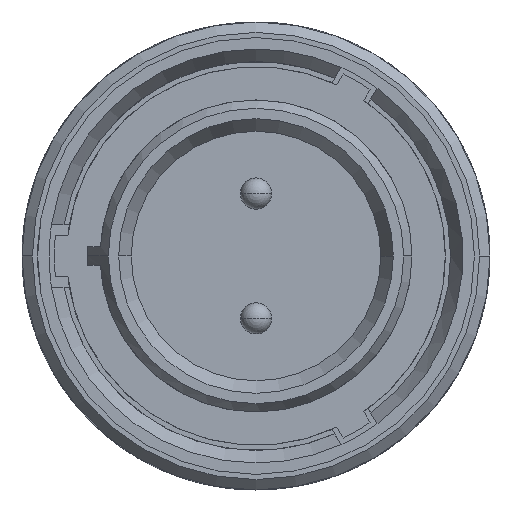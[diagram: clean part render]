
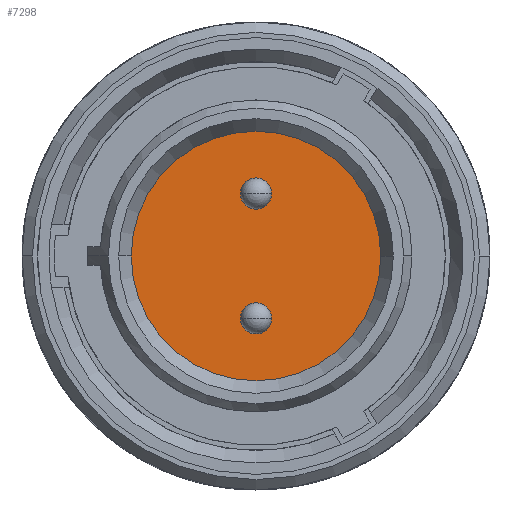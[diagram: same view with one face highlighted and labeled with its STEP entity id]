
A CAD part, left-side view. The second image highlights one B-rep face of the part: STEP entity #7298.
In plain terms, the highlighted planar face has unit normal (-1, 0, 0).
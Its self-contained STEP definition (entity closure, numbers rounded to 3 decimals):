
#1545=CARTESIAN_POINT('',(12.1,0.,0.));
#1546=DIRECTION('',(1.,0.,0.));
#1547=DIRECTION('',(0.,-1.,0.));
#1548=AXIS2_PLACEMENT_3D('',#1545,#1546,#1547);
#1559=CARTESIAN_POINT('',(12.1,0.,0.));
#1560=DIRECTION('',(1.,0.,0.));
#1561=DIRECTION('',(0.,1.,0.));
#1562=AXIS2_PLACEMENT_3D('',#1559,#1560,#1561);
#1573=CARTESIAN_POINT('',(12.1,0.,-3.));
#1574=DIRECTION('',(-1.,0.,0.));
#1575=DIRECTION('',(0.,1.,0.));
#1576=AXIS2_PLACEMENT_3D('',#1573,#1574,#1575);
#1587=CARTESIAN_POINT('',(12.1,0.,-3.));
#1588=DIRECTION('',(-1.,0.,0.));
#1589=DIRECTION('',(0.,-1.,0.));
#1590=AXIS2_PLACEMENT_3D('',#1587,#1588,#1589);
#1611=CARTESIAN_POINT('',(12.1,0.,3.));
#1612=DIRECTION('',(-1.,0.,0.));
#1613=DIRECTION('',(0.,1.,0.));
#1614=AXIS2_PLACEMENT_3D('',#1611,#1612,#1613);
#1625=CARTESIAN_POINT('',(12.1,0.,3.));
#1626=DIRECTION('',(-1.,0.,0.));
#1627=DIRECTION('',(0.,-1.,0.));
#1628=AXIS2_PLACEMENT_3D('',#1625,#1626,#1627);
#5970=CARTESIAN_POINT('',(12.1,-6.,0.));
#5971=CARTESIAN_POINT('',(12.1,6.,0.));
#5972=VERTEX_POINT('',#5970);
#5973=VERTEX_POINT('',#5971);
#5976=CARTESIAN_POINT('',(12.1,0.75,-3.));
#5977=CARTESIAN_POINT('',(12.1,-0.75,-3.));
#5978=VERTEX_POINT('',#5976);
#5979=VERTEX_POINT('',#5977);
#5980=CARTESIAN_POINT('',(12.1,0.75,3.));
#5981=CARTESIAN_POINT('',(12.1,-0.75,3.));
#5982=VERTEX_POINT('',#5980);
#5983=VERTEX_POINT('',#5981);
#7276=CARTESIAN_POINT('',(12.1,0.,0.));
#7277=DIRECTION('',(-1.,0.,0.));
#7278=DIRECTION('',(0.,1.,0.));
#7279=AXIS2_PLACEMENT_3D('',#7276,#7277,#7278);
#7280=PLANE('',#7279);
#7281=ORIENTED_EDGE('',*,*,#7266,.T.);
#7283=ORIENTED_EDGE('',*,*,#7282,.T.);
#7284=EDGE_LOOP('',(#7281,#7283));
#7285=FACE_OUTER_BOUND('',#7284,.F.);
#7287=ORIENTED_EDGE('',*,*,#7286,.T.);
#7289=ORIENTED_EDGE('',*,*,#7288,.T.);
#7290=EDGE_LOOP('',(#7287,#7289));
#7291=FACE_BOUND('',#7290,.F.);
#7293=ORIENTED_EDGE('',*,*,#7292,.T.);
#7295=ORIENTED_EDGE('',*,*,#7294,.T.);
#7296=EDGE_LOOP('',(#7293,#7295));
#7297=FACE_BOUND('',#7296,.F.);
#7298=ADVANCED_FACE('',(#7285,#7291,#7297),#7280,.T.);
#1549=CIRCLE('',#1548,6.);
#1563=CIRCLE('',#1562,6.);
#1577=CIRCLE('',#1576,0.75);
#1591=CIRCLE('',#1590,0.75);
#1615=CIRCLE('',#1614,0.75);
#1629=CIRCLE('',#1628,0.75);
#7266=EDGE_CURVE('',#5972,#5973,#1549,.T.);
#7282=EDGE_CURVE('',#5973,#5972,#1563,.T.);
#7286=EDGE_CURVE('',#5978,#5979,#1577,.T.);
#7288=EDGE_CURVE('',#5979,#5978,#1591,.T.);
#7292=EDGE_CURVE('',#5982,#5983,#1615,.T.);
#7294=EDGE_CURVE('',#5983,#5982,#1629,.T.);
